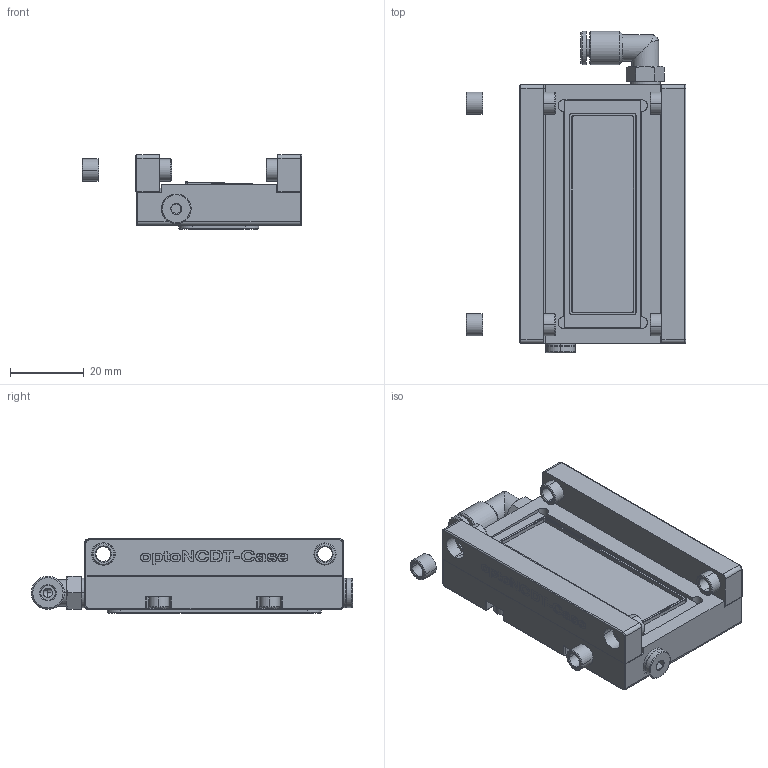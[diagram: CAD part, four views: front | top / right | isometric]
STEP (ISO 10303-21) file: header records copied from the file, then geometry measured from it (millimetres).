
FILE_DESCRIPTION((''),'2;1');
FILE_NAME('0000693107_ASM','2025-08-12T14:20:39',('pdmservice'),(''),'CREO PARAMETRIC BY PTC INC, 2024014','CREO PARAMETRIC BY PTC INC, 2024014','');
FILE_SCHEMA(('AUTOMOTIVE_DESIGN { 1 0 10303 214 1 1 1 1 }'));
Products named in the file (4): 0000692995; 0000688412; 0000688414; 0000693107_ASM
Assembly tree (4 placements, depth 2):
  0000693107_ASM
    0000692995
    0000688412  x2
    0000688414
Bounding box: 59.5 x 87 x 20.1 mm (x, y, z)
Volume: 29797 mm3; surface area: 21798.3 mm2
Topology: 5 solids, 24 shells, 1125 faces, 2926 edges, 1906 vertices
Faces by surface type: plane 403, cylinder 298, cone 179, extrusion 178, torus 50, sphere 12, bspline 5
Entity records: 59070 total; most frequent: CARTESIAN_POINT 12992, ORIENTED_EDGE 5744, DIRECTION 5306, PRESENTATION_STYLE_ASSIGNMENT 4008, STYLED_ITEM 3055, CURVE_STYLE 3050, EDGE_CURVE 2872, VERTEX_POINT 1890
